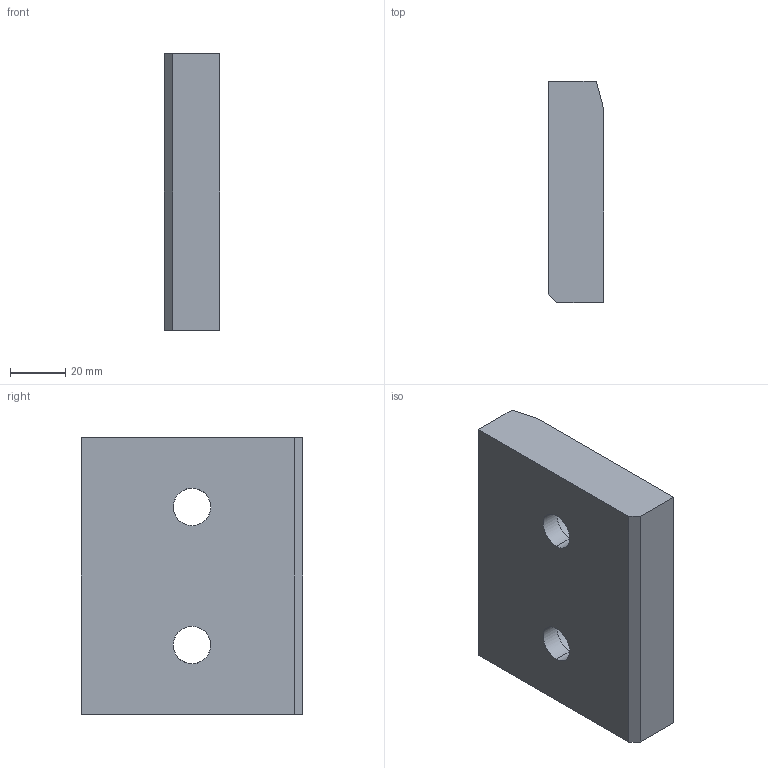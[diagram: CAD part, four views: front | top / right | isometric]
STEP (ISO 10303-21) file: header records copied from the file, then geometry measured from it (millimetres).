
FILE_DESCRIPTION(('CATIA V5 STEP Exchange'),'2;1');
FILE_NAME('C:\Users\borellobunino\Desktop\3D X SITO CF\A915\GSB_OILLESS_G22501100080\STEP-2.03\A915-100X80.stp','2019-07-14T13:10:33+00:00',('none'),('none'),'CATIA Version 5 Release 20 GA (IN-10)','CATIA V5 STEP AP203','none');
FILE_SCHEMA(('CONFIG_CONTROL_DESIGN'));
Length unit declared in the file: millimetre
Products named in the file (1): A915-100X80
Bounding box: 20 x 80 x 100 mm (x, y, z)
Volume: 147777.3 mm3; surface area: 24256 mm2
Topology: 1 solids, 1 shells, 23 faces, 73 edges, 54 vertices
Faces by surface type: plane 10, cylinder 9, torus 4
Entity records: 1057 total; most frequent: CARTESIAN_POINT 375, ORIENTED_EDGE 146, DIRECTION 103, EDGE_CURVE 73, AXIS2_PLACEMENT_3D 54, VERTEX_POINT 54, CIRCLE 30, EDGE_LOOP 29
